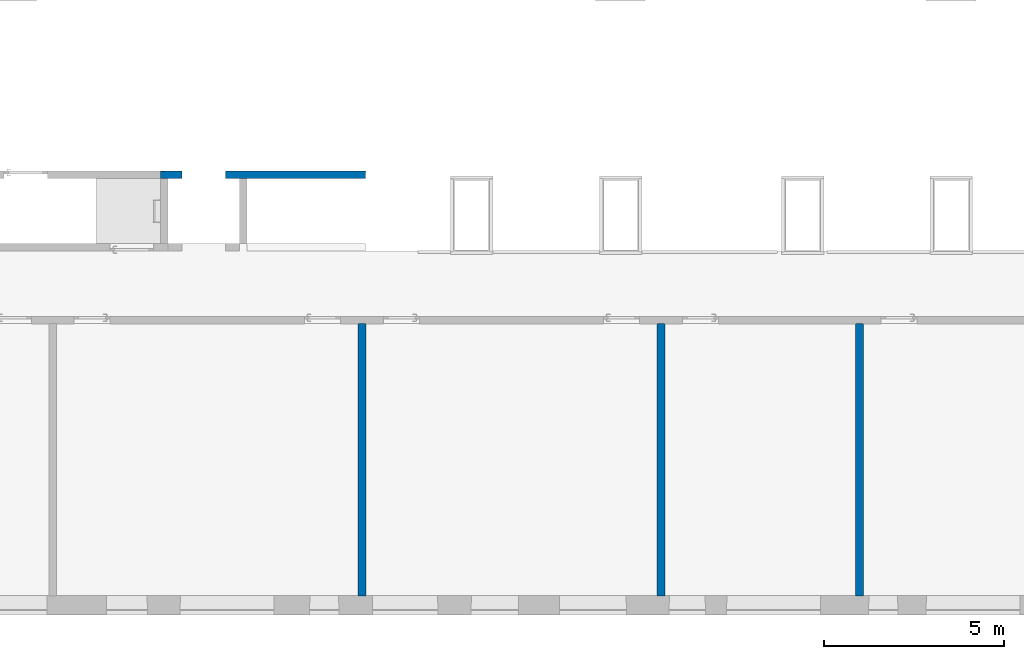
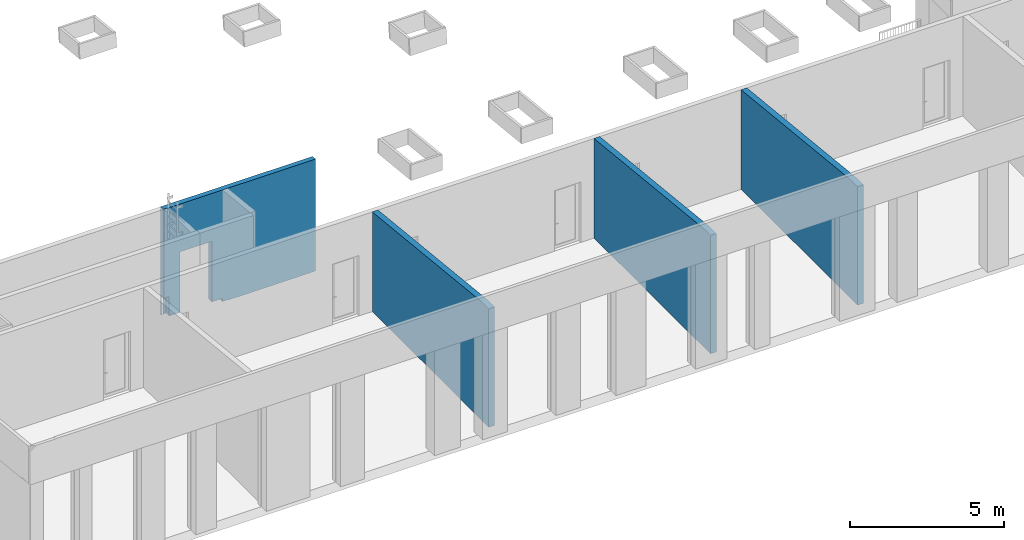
# One storey, part 6 of 23: 4 walls, 1 opening.
"""IFC2X3 building model written with IfcOpenShell, lengths in millimetres."""

from ifc_helpers import new_model, entity, si_unit, converted_unit, derived_unit, money_unit, direction, frame, origin_with_axes, place, context, subcontext, project, spatial, faceted_brep, material, material_list, type_object, element, save


model = new_model("IFC2X3")

# Units and contexts
model_context = context("Model", 3, precision=0.01, world=origin_with_axes(), true_north=direction((0.0, 1.0)))
body_context = subcontext(model_context, "Body", "Model", "MODEL_VIEW")
ifc_project = project(units=[si_unit("LENGTHUNIT", "METRE", prefix="MILLI"), si_unit("AREAUNIT", "SQUARE_METRE"), si_unit("VOLUMEUNIT", "CUBIC_METRE"), converted_unit("PLANEANGLEUNIT", "DEGREE", entity("IfcPlaneAngleMeasure", 0.0174532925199), si_unit("PLANEANGLEUNIT", "RADIAN"), dimensions=[0, 0, 0, 0, 0, 0, 0]), si_unit("SOLIDANGLEUNIT", "STERADIAN"), money_unit("EUR"), converted_unit("TIMEUNIT", "Year", entity("IfcTimeMeasure", 31556926.0), si_unit("TIMEUNIT", "SECOND"), dimensions=[0, 0, 1, 0, 0, 0, 0]), si_unit("MASSUNIT", "GRAM", prefix="KILO"), si_unit("THERMODYNAMICTEMPERATUREUNIT", "DEGREE_CELSIUS"), si_unit("LUMINOUSINTENSITYUNIT", "LUMEN"), si_unit("ENERGYUNIT", "JOULE", prefix="MEGA"), derived_unit("THERMALCONDUCTANCEUNIT", [(si_unit("POWERUNIT", "WATT"), 1), (si_unit("LENGTHUNIT", "METRE"), -1), (si_unit("THERMODYNAMICTEMPERATUREUNIT", "KELVIN"), -1)]), derived_unit("SPECIFICHEATCAPACITYUNIT", [(si_unit("ENERGYUNIT", "JOULE"), 1), (si_unit("MASSUNIT", "GRAM", prefix="KILO"), -1), (si_unit("THERMODYNAMICTEMPERATUREUNIT", "KELVIN"), -1)]), derived_unit("MASSDENSITYUNIT", [(si_unit("MASSUNIT", "GRAM", prefix="KILO"), 1), (si_unit("VOLUMEUNIT", "CUBIC_METRE"), -1)])], contexts=[model_context])

# Site, building, storey
site_placement = place(None, origin_with_axes())
site = spatial("IfcSite", under=ifc_project, at=site_placement, Name="L.Koidula tn 11b", CompositionType="ELEMENT")
building_placement = place(site_placement, origin_with_axes())
building = spatial("IfcBuilding", under=site, at=building_placement, Name="Rakvere Riigigümnaasium", CompositionType="ELEMENT")
storey_placement = place(building_placement, frame((0.0, 0.0, 7440.0), z_axis=(0.0, 0.0, 1.0), x_axis=(1.0, 0.0, 0.0)))
storey = spatial("IfcBuildingStorey", under=building, at=storey_placement, Name="3.korrus +7,44", CompositionType="ELEMENT", Elevation=7440.0)

# Walls
ifc_material_1 = material(Name="siseviimistlus-seinad")
ifc_material_2 = material(Name="Betoon element / plaat")
ifc_material_list_1 = material_list([ifc_material_1, ifc_material_2, ifc_material_1])
wall_type_1 = type_object("IfcWallType", Name="SS-01-2 220", PredefinedType="NOTDEFINED")
wall_1_placement = place(storey_placement, frame((52699.9999972, 5500.45553887, 0.0), z_axis=(0.0, 0.0, 1.0), x_axis=(0.0, 1.0, 0.0)))
element("IfcWall", 1, at=wall_1_placement, inside=storey, type_object=wall_type_1, material=ifc_material_list_1, Name="Sisesein", context=body_context, shape_type="Brep", body=[
    faceted_brep([(7569.99883287, 210.0, 3950.80257411), (7569.99883287, 200.0, 3950.80242232), (7569.99883287, 200.0, 0.0), (7569.99883287, 210.0, 0.0), (441.859956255, 200.00000253, 4700.0), (441.861400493, 209.999998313, 4700.0), (0.0, 200.000002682, 4700.0), (0.0, 200.0, 0.0), (0.0, 210.0, 0.0), (0.0, 209.999998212, 4160.0), (0.0, 209.999998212, 4700.0)], [[[0, 1, 2, 3]], [[4, 1, 0, 5]], [[1, 4, 6, 7, 2]], [[2, 7, 8, 3]], [[5, 0, 3, 8, 9, 10]], [[4, 5, 10, 6]], [[10, 9, 8, 7, 6]]]),
    faceted_brep([(7579.99883287, 200.0, 3949.75137998), (7579.99883287, 0.0, 3949.74834407), (7579.99883287, 0.0, 0.0), (7579.99883287, 200.0, 0.0), (441.831071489, 3.37318795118e-06, 4700.0), (441.859956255, 200.00000253, 4700.0), (0.0, 3.57628238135e-06, 4700.0), (0.0, 0.0, 0.0), (0.0, 200.0, 0.0), (0.0, 200.000002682, 4700.0)], [[[0, 1, 2, 3]], [[4, 1, 0, 5]], [[1, 4, 6, 7, 2]], [[2, 7, 8, 3]], [[5, 0, 3, 8, 9]], [[4, 5, 9, 6]], [[9, 8, 7, 6]]]),
    faceted_brep([(7569.99883287, 0.0, 3950.79938641), (7569.99883287, -10.0, 3950.79923461), (7569.99883287, -10.0, 0.0), (7569.99883287, 0.0, 0.0), (441.829627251, -10.0, 4700.0), (441.831071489, 3.37318795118e-06, 4700.0), (0.0, -10.0, 4700.0), (0.0, -10.0, 4160.0), (0.0, -10.0, 0.0), (0.0, 0.0, 0.0), (0.0, 3.57628238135e-06, 4700.0)], [[[0, 1, 2, 3]], [[4, 1, 0, 5]], [[1, 4, 6, 7, 8, 2]], [[2, 8, 9, 3]], [[5, 0, 3, 9, 10]], [[4, 5, 10, 6]], [[10, 9, 8, 7, 6]]]),
])
wall_2_placement = place(storey_placement, frame((61020.0162917, 5500.45553887, 0.0), z_axis=(0.0, 0.0, 1.0), x_axis=(0.0, 1.0, 0.0)))
element("IfcWall", 2, at=wall_2_placement, inside=storey, type_object=wall_type_1, material=ifc_material_list_1, Name="Sisesein", context=body_context, shape_type="Brep", body=[
    faceted_brep([(7569.99883287, 210.0, 3950.67627996), (7569.99883287, 200.0, 3950.67612816), (7569.99883287, 200.0, 0.0), (7569.99883287, 210.0, 0.0), (440.65834763, 200.00000253, 4700.0), (440.659791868, 209.999998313, 4700.0), (0.0, 200.000002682, 4700.0), (0.0, 200.0, 0.0), (0.0, 210.0, 0.0), (0.0, 209.999998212, 4160.0), (0.0, 209.999998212, 4700.0)], [[[0, 1, 2, 3]], [[4, 1, 0, 5]], [[1, 4, 6, 7, 2]], [[2, 7, 8, 3]], [[5, 0, 3, 8, 9, 10]], [[4, 5, 10, 6]], [[10, 9, 8, 7, 6]]]),
    faceted_brep([(7579.99883287, 200.0, 3949.62508582), (7579.99883287, 0.0, 3949.62204991), (7579.99883287, 0.0, 0.0), (7579.99883287, 200.0, 0.0), (440.629462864, 3.37373506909e-06, 4700.0), (440.65834763, 200.00000253, 4700.0), (0.0, 3.57628238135e-06, 4700.0), (0.0, 0.0, 0.0), (0.0, 200.0, 0.0), (0.0, 200.000002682, 4700.0)], [[[0, 1, 2, 3]], [[4, 1, 0, 5]], [[1, 4, 6, 7, 2]], [[2, 7, 8, 3]], [[5, 0, 3, 8, 9]], [[4, 5, 9, 6]], [[9, 8, 7, 6]]]),
    faceted_brep([(7569.99883287, 0.0, 3950.67309225), (7569.99883287, -10.0, 3950.67294046), (7569.99883287, -10.0, 0.0), (7569.99883287, 0.0, 0.0), (440.628018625, -10.0, 4700.0), (440.629462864, 3.37373506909e-06, 4700.0), (0.0, -10.0, 4700.0), (0.0, -10.0, 4160.0), (0.0, -10.0, 0.0), (0.0, 0.0, 0.0), (0.0, 3.57628238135e-06, 4700.0)], [[[0, 1, 2, 3]], [[4, 1, 0, 5]], [[1, 4, 6, 7, 8, 2]], [[2, 8, 9, 3]], [[5, 0, 3, 9, 10]], [[4, 5, 10, 6]], [[10, 9, 8, 7, 6]]]),
])
wall_3_placement = place(storey_placement, frame((66540.0149327, 5500.45553887, 0.0), z_axis=(0.0, 0.0, 1.0), x_axis=(0.0, 1.0, 0.0)))
element("IfcWall", 3, at=wall_3_placement, inside=storey, type_object=wall_type_1, material=ifc_material_list_1, Name="Sisesein", context=body_context, shape_type="Brep", body=[
    faceted_brep([(7569.99883287, 210.0, 3950.59248883), (7569.99883287, 200.0, 3950.59233704), (7569.99883287, 200.0, 0.0), (7569.99883287, 210.0, 0.0), (439.86112828, 200.000002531, 4700.0), (439.862572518, 209.999998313, 4700.0), (0.0, 200.000002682, 4700.0), (0.0, 200.0, 0.0), (0.0, 210.0, 0.0), (0.0, 209.999998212, 4160.0), (0.0, 209.999998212, 4700.0)], [[[0, 1, 2, 3]], [[4, 1, 0, 5]], [[1, 4, 6, 7, 2]], [[2, 7, 8, 3]], [[5, 0, 3, 8, 9, 10]], [[4, 5, 10, 6]], [[10, 9, 8, 7, 6]]]),
    faceted_brep([(7579.99883287, 200.0, 3949.54129469), (7579.99883287, 0.0, 3949.53825878), (7579.99883287, 0.0, 0.0), (7579.99883287, 200.0, 0.0), (439.832243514, 3.37409744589e-06, 4700.0), (439.86112828, 200.000002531, 4700.0), (0.0, 3.57627527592e-06, 4700.0), (0.0, 0.0, 0.0), (0.0, 200.0, 0.0), (0.0, 200.000002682, 4700.0)], [[[0, 1, 2, 3]], [[4, 1, 0, 5]], [[1, 4, 6, 7, 2]], [[2, 7, 8, 3]], [[5, 0, 3, 8, 9]], [[4, 5, 9, 6]], [[9, 8, 7, 6]]]),
    faceted_brep([(7569.99883287, 0.0, 3950.58930112), (7569.99883287, -10.0, 3950.58914933), (7569.99883287, -10.0, 0.0), (7569.99883287, 0.0, 0.0), (439.830799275, -10.0, 4700.0), (439.832243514, 3.37409744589e-06, 4700.0), (0.0, -10.0, 4700.0), (0.0, -10.0, 4160.0), (0.0, -9.99999999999, 0.0), (0.0, 0.0, 0.0), (0.0, 3.57627527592e-06, 4700.0)], [[[0, 1, 2, 3]], [[4, 1, 0, 5]], [[1, 4, 6, 7, 8, 2]], [[2, 8, 9, 3]], [[5, 0, 3, 9, 10]], [[4, 5, 10, 6]], [[10, 9, 8, 7, 6]]]),
])

# Wall, opening
ifc_material_list_2 = material_list([ifc_material_2, ifc_material_1])
wall_type_2 = type_object("IfcWallType", Name="SS-01-1 210", PredefinedType="NOTDEFINED")
wall_4_placement = place(storey_placement, frame((52499.9999937, 17110.4555095, -917.548582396), z_axis=(0.0, 0.0, 1.0), x_axis=(-1.0, 0.0, 0.0)))
wall_4 = element("IfcWall", 4, at=wall_4_placement, inside=storey, type_object=wall_type_2, material=ifc_material_list_2, Name="Sisesein", context=body_context, shape_type="Brep", body=[
    faceted_brep([(5499.99999991, -200.00000596, 4422.79241919), (-200.0, -200.000000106, 4422.70589633), (-200.0, -200.0, 12.5485823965), (0.0, -200.000000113, 12.5485823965), (0.0, -200.0, 0.0), (3100.00000001, -200.0, 0.0), (3100.00000001, -200.000000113, 12.5485823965), (3299.99999988, -200.0, 12.5485823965), (3299.99999988, -200.0, 142.548582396), (3699.99999814, -200.000000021, 142.548582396), (3699.99999814, -200.000000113, 2542.5485824), (4899.99999814, -200.000000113, 2542.5485824), (4899.99999814, -200.000000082, 142.548582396), (5299.99999991, -200.000000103, 142.548582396), (5299.99999991, -200.000000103, 917.548582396), (5499.99999991, -200.00000596, 917.548582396), (-200.0, -2.10999218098e-07, 4443.72674315), (5499.9999999, -1.19209389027e-05, 4443.81326539), (-200.0, 2.68300937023e-08, 12.5485823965), (0.0, 2.82014411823e-08, 12.5485823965), (0.0, 2.82014411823e-08, 0.0), (3100.00000001, -2.5264910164e-06, 0.0), (3100.00000001, -2.5264910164e-06, 12.5485823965), (3299.99999988, -2.52511966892e-06, 12.5485823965), (3299.99999988, 0.0, 142.548582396), (3699.99999814, 0.0, 142.548582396), (3699.99999814, 2.82014411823e-08, 2542.5485824), (4899.99999814, 2.82014411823e-08, 2542.5485824), (4899.99999814, 0.0, 142.548582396), (5299.99999991, 0.0, 142.548582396), (5299.99999991, -2.05179873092e-07, 917.548582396), (5499.99999978, -1.19209389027e-05, 917.548582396)], [[[0, 1, 2, 3, 4, 5, 6, 7, 8, 9, 10, 11, 12, 13, 14, 15]], [[16, 1, 0, 17]], [[1, 16, 18, 2]], [[3, 2, 18, 19]], [[4, 3, 19, 20]], [[4, 20, 21, 5]], [[6, 5, 21, 22]], [[7, 6, 22, 23]], [[7, 23, 24, 8]], [[24, 25, 9, 8]], [[26, 10, 9, 25]], [[27, 11, 10, 26]], [[28, 12, 11, 27]], [[13, 12, 28, 29]], [[30, 14, 13, 29]], [[31, 15, 14, 30]], [[17, 0, 15, 31]], [[16, 17, 31, 30, 29, 28, 27, 26, 25, 24, 23, 22, 21, 20, 19, 18]]]),
    faceted_brep([(5408.50000017, -210.0, 4421.73998854), (-210.0, -210.0, 4421.65470221), (-210.0, -210.0, 137.548582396), (0.0, -210.0, 137.548582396), (0.0, -210.0, 0.0), (3100.00000001, -209.999999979, 0.0), (3100.00000001, -210.0, 137.548582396), (3699.99999814, -209.999999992, 137.548582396), (3699.99999814, -210.0, 142.548582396), (3699.99999814, -210.0, 2542.5485824), (4899.99999814, -210.0, 2542.5485824), (4899.99999814, -210.0, 142.548582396), (4899.99999814, -209.999999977, 137.548582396), (5499.99999991, -209.999999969, 137.548582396), (5499.99999991, -210.0, 917.548582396), (5499.99999991, -210.0, 4421.74137747), (5474.5000002, -210.0, 4421.74099039), (5474.50000019, -210.0, 142.548582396), (5408.50000019, -210.0, 142.548582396), (-210.0, -200.000000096, 4422.70574454), (5408.50000019, -200.000002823, 4422.79103059), (-210.0, -200.000000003, 137.548582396), (0.0, -200.000003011, 137.548582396), (0.0, -200.0, 0.0), (3100.00000001, -200.0, 0.0), (3100.00000001, -200.000003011, 137.548582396), (3699.99999814, -200.000002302, 137.548582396), (3699.99999814, -200.000003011, 142.548582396), (3699.99999814, -200.000003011, 2542.5485824), (4899.99999814, -200.000003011, 2542.5485824), (4899.99999814, -200.000003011, 142.548582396), (4899.99999814, -200.000000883, 137.548582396), (5499.99999991, -200.000000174, 137.548582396), (5499.99999991, -200.000005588, 4422.79241922), (5474.50000019, -200.000002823, 4422.79203244), (5474.50000019, -200.000000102, 142.548582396), (5408.50000019, -200.000000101, 142.548582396)], [[[0, 1, 2, 3, 4, 5, 6, 7, 8, 9, 10, 11, 12, 13, 14, 15, 16, 17, 18]], [[19, 1, 0, 20]], [[1, 19, 21, 2]], [[3, 2, 21, 22]], [[3, 22, 23, 4]], [[4, 23, 24, 5]], [[25, 6, 5, 24]], [[26, 7, 6, 25]], [[26, 27, 8, 7]], [[28, 9, 8, 27]], [[29, 10, 9, 28]], [[30, 11, 10, 29]], [[12, 11, 30, 31]], [[12, 31, 32, 13]], [[33, 15, 14, 13, 32]], [[34, 16, 15, 33]], [[16, 34, 35, 17]], [[36, 18, 17, 35]], [[20, 0, 18, 36]], [[19, 20, 36, 35, 34, 33, 32, 31, 30, 29, 28, 27, 26, 25, 24, 23, 22, 21]]]),
])
opening_placement = place(wall_4_placement, frame((4299.99999814, 0.0, 142.548582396), z_axis=(0.0, 0.0, 1.0), x_axis=(1.0, 0.0, 0.0)))
element("IfcOpeningElement", 5, at=opening_placement, cuts=wall_4, Name="ava", context=body_context, shape_type="Brep", body=[
    faceted_brep([(-600.0, -420.0, 0.0), (-600.0, -420.0, 2400.0), (-600.0, 210.0, 2400.0), (-600.0, 210.0, 0.0), (600.0, -420.0, 0.0), (600.0, -420.0, 2400.0), (600.0, 210.0, 2400.0), (600.0, 210.0, 0.0)], [[[0, 1, 2, 3]], [[0, 4, 5, 1]], [[1, 5, 6, 2]], [[3, 2, 6, 7]], [[4, 0, 3, 7]], [[5, 4, 7, 6]]]),
])

save(model, "model.ifc")
